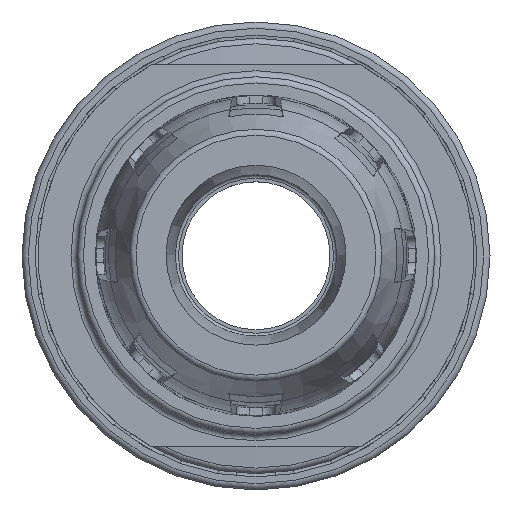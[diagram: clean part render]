
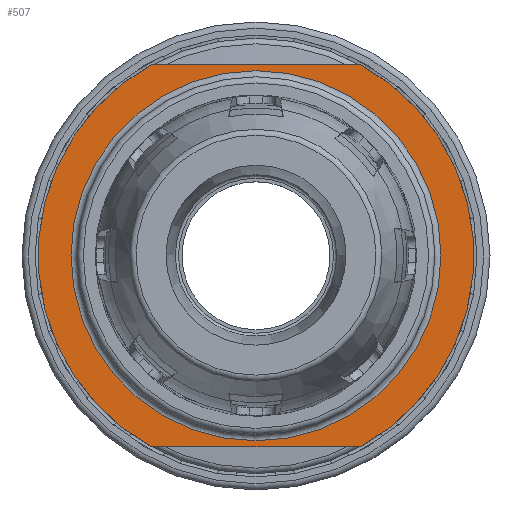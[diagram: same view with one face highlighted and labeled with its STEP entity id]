
A CAD part, top view. The second image highlights one B-rep face of the part: STEP entity #507.
In plain terms, the highlighted planar face has unit normal (0, 0, 1).
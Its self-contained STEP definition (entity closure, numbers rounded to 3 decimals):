
#507 = ADVANCED_FACE( '', ( #1421, #1422 ), #1423, .F. );
#1421 = FACE_BOUND( '', #2896, .T. );
#1422 = FACE_OUTER_BOUND( '', #2897, .T. );
#1423 = PLANE( '', #2898 );
#2896 = EDGE_LOOP( '', ( #4986 ) );
#2897 = EDGE_LOOP( '', ( #4987, #4988, #4989, #4990 ) );
#2898 = AXIS2_PLACEMENT_3D( '', #4991, #4992, #4993 );
#4986 = ORIENTED_EDGE( '', *, *, #8901, .T. );
#4987 = ORIENTED_EDGE( '', *, *, #8902, .F. );
#4988 = ORIENTED_EDGE( '', *, *, #8903, .F. );
#4989 = ORIENTED_EDGE( '', *, *, #8904, .F. );
#4990 = ORIENTED_EDGE( '', *, *, #8905, .T. );
#4991 = CARTESIAN_POINT( '', ( -34.7, 0., -33.199 ) );
#4992 = DIRECTION( '', ( 0., 0., -1. ) );
#4993 = DIRECTION( '', ( 0., -1., 0. ) );
#8901 = EDGE_CURVE( '', #10543, #10543, #10544, .T. );
#8902 = EDGE_CURVE( '', #10545, #10546, #10547, .T. );
#8903 = EDGE_CURVE( '', #10548, #10545, #10549, .T. );
#8904 = EDGE_CURVE( '', #10550, #10548, #10551, .T. );
#8905 = EDGE_CURVE( '', #10550, #10546, #10552, .T. );
#10543 = VERTEX_POINT( '', #13051 );
#10544 = CIRCLE( '', #13052, 29.482 );
#10545 = VERTEX_POINT( '', #13053 );
#10546 = VERTEX_POINT( '', #13054 );
#10547 = CIRCLE( '', #13055, 34.7 );
#10548 = VERTEX_POINT( '', #13056 );
#10549 = LINE( '', #13057, #13058 );
#10550 = VERTEX_POINT( '', #13059 );
#10551 = CIRCLE( '', #13060, 34.7 );
#10552 = LINE( '', #13061, #13062 );
#13051 = CARTESIAN_POINT( '', ( 0., 29.482, -33.199 ) );
#13052 = AXIS2_PLACEMENT_3D( '', #17703, #17704, #17705 );
#13053 = CARTESIAN_POINT( '', ( -16.637, -30.452, -33.199 ) );
#13054 = CARTESIAN_POINT( '', ( -16.637, 30.452, -33.199 ) );
#13055 = AXIS2_PLACEMENT_3D( '', #17706, #17707, #17708 );
#13056 = CARTESIAN_POINT( '', ( 16.637, -30.452, -33.199 ) );
#13057 = CARTESIAN_POINT( '', ( 163.046, -30.452, -33.199 ) );
#13058 = VECTOR( '', #17709, 1000. );
#13059 = CARTESIAN_POINT( '', ( 16.637, 30.452, -33.199 ) );
#13060 = AXIS2_PLACEMENT_3D( '', #17710, #17711, #17712 );
#13061 = CARTESIAN_POINT( '', ( -34.7, 30.452, -33.199 ) );
#13062 = VECTOR( '', #17713, 1000. );
#17703 = CARTESIAN_POINT( '', ( 0., 0., -33.199 ) );
#17704 = DIRECTION( '', ( 0., 0., -1. ) );
#17705 = DIRECTION( '', ( 0., 1., 0. ) );
#17706 = CARTESIAN_POINT( '', ( 0., 0., -33.199 ) );
#17707 = DIRECTION( '', ( 0., 0., -1. ) );
#17708 = DIRECTION( '', ( 0., 1., 0. ) );
#17709 = DIRECTION( '', ( -1., 0., 0. ) );
#17710 = CARTESIAN_POINT( '', ( 0., 0., -33.199 ) );
#17711 = DIRECTION( '', ( 0., 0., -1. ) );
#17712 = DIRECTION( '', ( 0., 1., 0. ) );
#17713 = DIRECTION( '', ( -1., 0., 0. ) );
